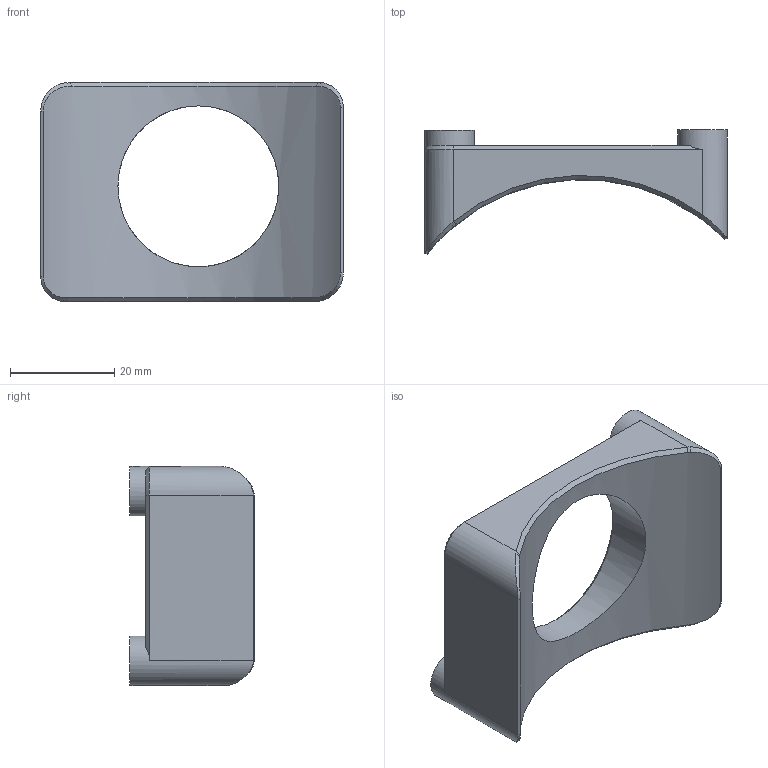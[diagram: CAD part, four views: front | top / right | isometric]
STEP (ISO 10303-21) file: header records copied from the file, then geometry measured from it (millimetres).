
FILE_DESCRIPTION(/* description */ (''),/* implementation_level */ '2;1');
FILE_NAME(/* name */ 'C:/Users/Jacob/Desktop/CAD/Evo MAF Housing/Mitsubishi Evo Billet MAF Housing v12.step',/* time_stamp */ '2017-07-21T11:13:51-06:00',/* author */ (''),/* organization */ (''),/* preprocessor_version */ 'ST-DEVELOPER v16.13',/* originating_system */ 'Autodesk Translation Framework v6.1.1.50',/* authorisation */ '');
FILE_SCHEMA (('AUTOMOTIVE_DESIGN { 1 0 10303 214 3 1 1 }'));
Length unit declared in the file: millimetre
Products named in the file (1): Mitsubishi Evo Billet MAF Housing v12
Bounding box: 58.02 x 23.82 x 42.04 mm (x, y, z)
Volume: 19965.3 mm3; surface area: 7609 mm2
Topology: 1 solids, 1 shells, 337 faces, 916 edges, 606 vertices
Faces by surface type: plane 219, cylinder 105, bspline 8, cone 5
Full cylindrical faces by diameter (mm): 4.234 x2, 9.5 x2, 30.86 x1
Entity records: 10854 total; most frequent: CARTESIAN_POINT 2171, ORIENTED_EDGE 1818, DIRECTION 1776, EDGE_CURVE 909, LINE 676, VECTOR 676, VERTEX_POINT 605, AXIS2_PLACEMENT_3D 550
